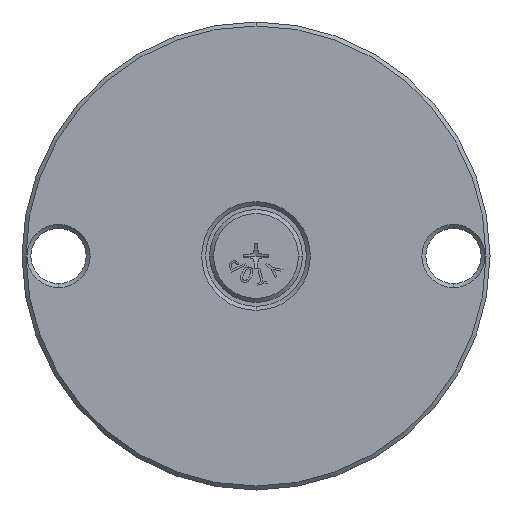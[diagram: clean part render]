
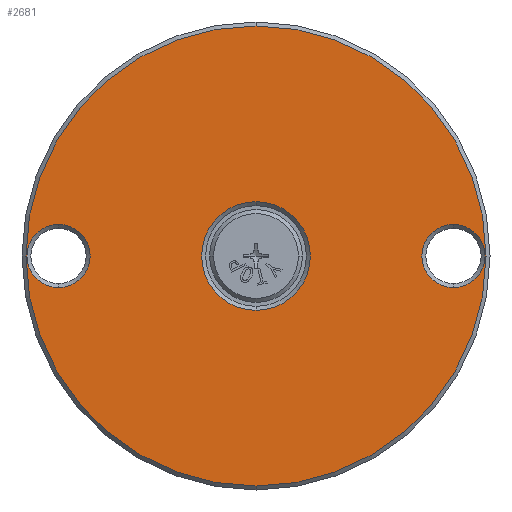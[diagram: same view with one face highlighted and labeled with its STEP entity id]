
A CAD part, front view. The second image highlights one B-rep face of the part: STEP entity #2681.
In plain terms, the highlighted planar face has unit normal (0, -1, 0).
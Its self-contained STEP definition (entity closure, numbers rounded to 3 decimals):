
#72 = ORIENTED_EDGE ( 'NONE', *, *, #4194, .T. ) ;
#379 = CARTESIAN_POINT ( 'NONE',  ( -50., 0., -8. ) ) ;
#505 = VERTEX_POINT ( 'NONE', #8357 ) ;
#557 = EDGE_CURVE ( 'NONE', #505, #4398, #3881, .T. ) ;
#605 = DIRECTION ( 'NONE',  ( 0., 1., 0. ) ) ;
#611 = VERTEX_POINT ( 'NONE', #3266 ) ;
#661 = AXIS2_PLACEMENT_3D ( 'NONE', #7347, #4134, #7996 ) ;
#828 = CARTESIAN_POINT ( 'NONE',  ( 50., 0., 0. ) ) ;
#869 = ORIENTED_EDGE ( 'NONE', *, *, #4162, .T. ) ;
#978 = AXIS2_PLACEMENT_3D ( 'NONE', #6296, #2991, #5523 ) ;
#1235 = FACE_BOUND ( 'NONE', #6599, .T. ) ;
#1460 = CIRCLE ( 'NONE', #4408, 8. ) ;
#1500 = PLANE ( 'NONE',  #661 ) ;
#1838 = DIRECTION ( 'NONE',  ( 0., 0., 1. ) ) ;
#1857 = DIRECTION ( 'NONE',  ( 0., 0., 1. ) ) ;
#2260 = EDGE_CURVE ( 'NONE', #8094, #2616, #1460, .T. ) ;
#2616 = VERTEX_POINT ( 'NONE', #4599 ) ;
#2622 = VERTEX_POINT ( 'NONE', #3205 ) ;
#2631 = ORIENTED_EDGE ( 'NONE', *, *, #4664, .T. ) ;
#2681 = ADVANCED_FACE ( 'NONE', ( #1235, #7860, #7973, #6971 ), #1500, .F. ) ;
#2991 = DIRECTION ( 'NONE',  ( 0., 1., 0. ) ) ;
#3072 = CIRCLE ( 'NONE', #7141, 58.25 ) ;
#3075 = DIRECTION ( 'NONE',  ( 0., 1., 0. ) ) ;
#3205 = CARTESIAN_POINT ( 'NONE',  ( 0., 0., -58.25 ) ) ;
#3266 = CARTESIAN_POINT ( 'NONE',  ( 0., 0., 58.25 ) ) ;
#3440 = AXIS2_PLACEMENT_3D ( 'NONE', #5780, #605, #1838 ) ;
#3705 = DIRECTION ( 'NONE',  ( 0., 1., 0. ) ) ;
#3706 = DIRECTION ( 'NONE',  ( 0., -1., 0. ) ) ;
#3712 = CIRCLE ( 'NONE', #5893, 58.25 ) ;
#3845 = DIRECTION ( 'NONE',  ( 0., 0., 1. ) ) ;
#3881 = CIRCLE ( 'NONE', #5926, 13.75 ) ;
#3893 = ORIENTED_EDGE ( 'NONE', *, *, #557, .T. ) ;
#3899 = EDGE_CURVE ( 'NONE', #611, #2622, #3072, .T. ) ;
#3904 = CARTESIAN_POINT ( 'NONE',  ( 50., 0., 0. ) ) ;
#3918 = DIRECTION ( 'NONE',  ( 0., -1., 0. ) ) ;
#4054 = CARTESIAN_POINT ( 'NONE',  ( 50., 0., 8. ) ) ;
#4099 = DIRECTION ( 'NONE',  ( 0., 0., 1. ) ) ;
#4134 = DIRECTION ( 'NONE',  ( 0., 1., 0. ) ) ;
#4136 = VERTEX_POINT ( 'NONE', #5048 ) ;
#4162 = EDGE_CURVE ( 'NONE', #5681, #4136, #6439, .T. ) ;
#4194 = EDGE_CURVE ( 'NONE', #4136, #5681, #5117, .T. ) ;
#4386 = EDGE_CURVE ( 'NONE', #2616, #8094, #8380, .T. ) ;
#4398 = VERTEX_POINT ( 'NONE', #7425 ) ;
#4408 = AXIS2_PLACEMENT_3D ( 'NONE', #3904, #4561, #3845 ) ;
#4561 = DIRECTION ( 'NONE',  ( 0., 1., 0. ) ) ;
#4599 = CARTESIAN_POINT ( 'NONE',  ( 50., 0., -8. ) ) ;
#4664 = EDGE_CURVE ( 'NONE', #4398, #505, #5145, .T. ) ;
#5048 = CARTESIAN_POINT ( 'NONE',  ( -50., 0., 8. ) ) ;
#5081 = CARTESIAN_POINT ( 'NONE',  ( 0., 0., 0. ) ) ;
#5117 = CIRCLE ( 'NONE', #3440, 8. ) ;
#5145 = CIRCLE ( 'NONE', #978, 13.75 ) ;
#5228 = AXIS2_PLACEMENT_3D ( 'NONE', #7684, #3705, #6282 ) ;
#5469 = DIRECTION ( 'NONE',  ( 0., 1., 0. ) ) ;
#5483 = EDGE_LOOP ( 'NONE', ( #2631, #3893 ) ) ;
#5523 = DIRECTION ( 'NONE',  ( 0., 0., 1. ) ) ;
#5592 = DIRECTION ( 'NONE',  ( 0., 0., 1. ) ) ;
#5681 = VERTEX_POINT ( 'NONE', #379 ) ;
#5780 = CARTESIAN_POINT ( 'NONE',  ( -50., 0., 0. ) ) ;
#5893 = AXIS2_PLACEMENT_3D ( 'NONE', #6333, #3706, #5592 ) ;
#5926 = AXIS2_PLACEMENT_3D ( 'NONE', #5081, #3075, #7690 ) ;
#6257 = EDGE_CURVE ( 'NONE', #2622, #611, #3712, .T. ) ;
#6282 = DIRECTION ( 'NONE',  ( 0., 0., 1. ) ) ;
#6296 = CARTESIAN_POINT ( 'NONE',  ( 0., 0., 0. ) ) ;
#6333 = CARTESIAN_POINT ( 'NONE',  ( 0., 0., 0. ) ) ;
#6439 = CIRCLE ( 'NONE', #5228, 8. ) ;
#6485 = CARTESIAN_POINT ( 'NONE',  ( 0., 0., 0. ) ) ;
#6599 = EDGE_LOOP ( 'NONE', ( #7334, #6759 ) ) ;
#6759 = ORIENTED_EDGE ( 'NONE', *, *, #2260, .T. ) ;
#6971 = FACE_BOUND ( 'NONE', #5483, .T. ) ;
#7141 = AXIS2_PLACEMENT_3D ( 'NONE', #6485, #3918, #1857 ) ;
#7149 = EDGE_LOOP ( 'NONE', ( #7409, #8306 ) ) ;
#7302 = EDGE_LOOP ( 'NONE', ( #869, #72 ) ) ;
#7334 = ORIENTED_EDGE ( 'NONE', *, *, #4386, .T. ) ;
#7347 = CARTESIAN_POINT ( 'NONE',  ( 59.25, 0., 0. ) ) ;
#7409 = ORIENTED_EDGE ( 'NONE', *, *, #3899, .T. ) ;
#7425 = CARTESIAN_POINT ( 'NONE',  ( 0., 0., -13.75 ) ) ;
#7684 = CARTESIAN_POINT ( 'NONE',  ( -50., 0., 0. ) ) ;
#7690 = DIRECTION ( 'NONE',  ( 0., 0., 1. ) ) ;
#7789 = AXIS2_PLACEMENT_3D ( 'NONE', #828, #5469, #4099 ) ;
#7860 = FACE_BOUND ( 'NONE', #7302, .T. ) ;
#7973 = FACE_OUTER_BOUND ( 'NONE', #7149, .T. ) ;
#7996 = DIRECTION ( 'NONE',  ( 0., 0., 1. ) ) ;
#8094 = VERTEX_POINT ( 'NONE', #4054 ) ;
#8306 = ORIENTED_EDGE ( 'NONE', *, *, #6257, .T. ) ;
#8357 = CARTESIAN_POINT ( 'NONE',  ( 0., 0., 13.75 ) ) ;
#8380 = CIRCLE ( 'NONE', #7789, 8. ) ;
